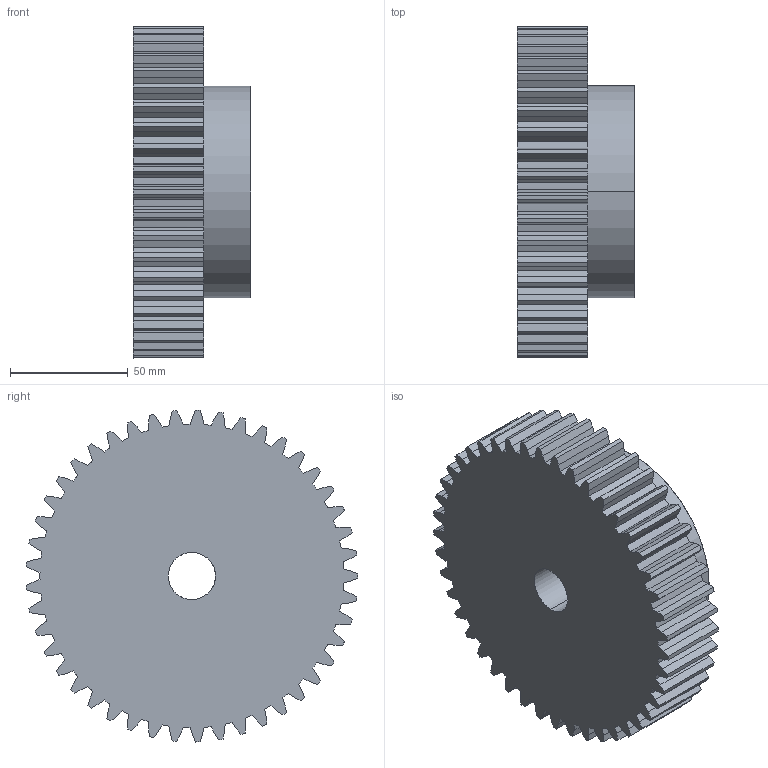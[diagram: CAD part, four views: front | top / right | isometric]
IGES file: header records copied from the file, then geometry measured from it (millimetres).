
Start section: SolidWorks IGES file using analytic representation for surfaces
Global section: file name: C:\Users\Honza\Desktop\Matis (Hotove)\Èelní ozubená kola\PM\MODUL 3\PM 30045.IGS; native system: SolidWorks 2010; preprocessor: SolidWorks 2010; author: Honza; date: 130925.160708; units: millimetre
Bounding box: 50 x 140.89 x 140.97 mm (x, y, z)
Surface area: 60542 mm2 (no closed solid volume)
Topology: 0 solids, 0 shells, 277 faces, 1846 edges, 1846 vertices
Faces by surface type: bspline 183, revolution 94
